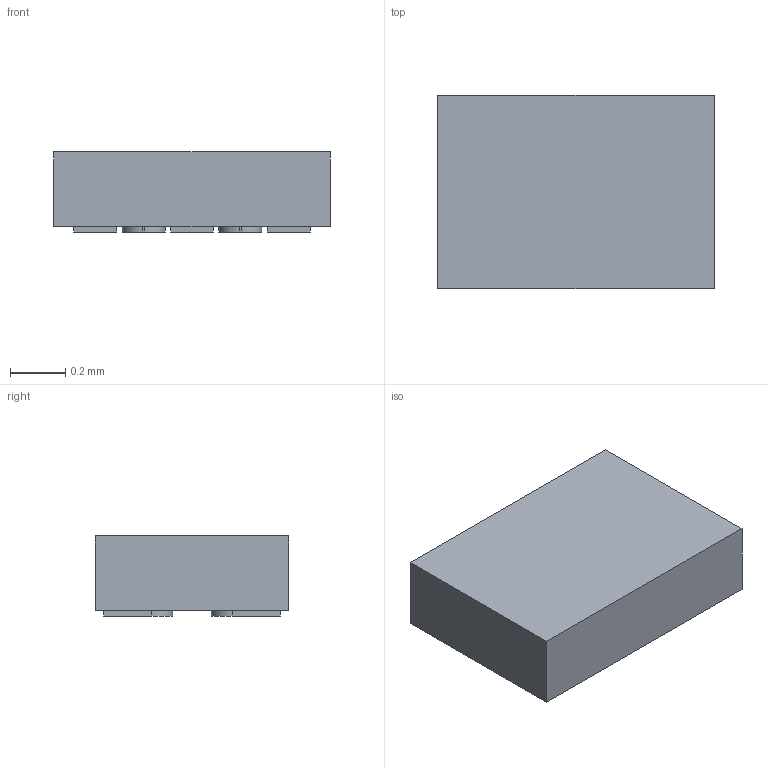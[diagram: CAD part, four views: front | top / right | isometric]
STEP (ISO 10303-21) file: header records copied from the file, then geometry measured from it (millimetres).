
FILE_DESCRIPTION(/* description */ (''),/* implementation_level */ '2;1');
FILE_NAME(/* name */ 'K:\ba\DCC\782_15\39060441.stp',/* time_stamp */ '2015-08-18T15:26:54+02:00',/* author */ ('brotzinger'),/* organization */ (''),/* preprocessor_version */ 'ST-DEVELOPER v15.2',/* originating_system */ 'Autodesk Inventor 2014',/* authorisation */ '');
FILE_SCHEMA (('AUTOMOTIVE_DESIGN { 1 0 10303 214 3 1 1 }'));
Length unit declared in the file: millimetre
Products named in the file (1): 39060441
Bounding box: 1 x 0.7 x 0.29 mm (x, y, z)
Volume: 0.2 mm3; surface area: 2.4 mm2
Topology: 1 solids, 1 shells, 41 faces, 102 edges, 68 vertices
Faces by surface type: plane 31, cylinder 10
Entity records: 1282 total; most frequent: CARTESIAN_POINT 212, DIRECTION 206, ORIENTED_EDGE 204, EDGE_CURVE 102, LINE 82, VECTOR 82, VERTEX_POINT 68, AXIS2_PLACEMENT_3D 62
